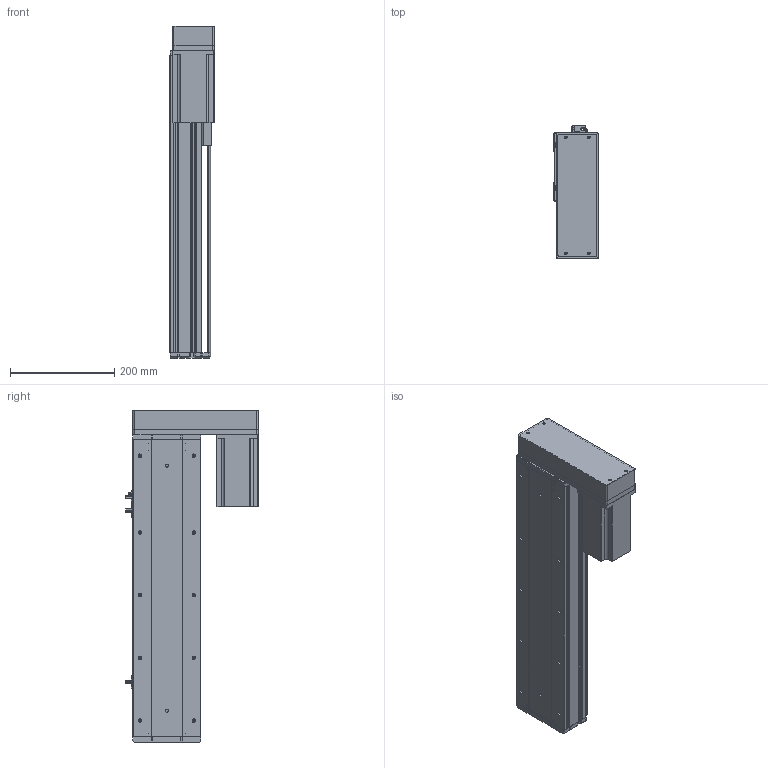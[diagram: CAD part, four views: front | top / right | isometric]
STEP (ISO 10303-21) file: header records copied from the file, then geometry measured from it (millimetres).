
FILE_DESCRIPTION (( 'STEP AP214' ), '1' );
FILE_NAME ('KSD130-P2010-S350-MR-CM.STEP', '2019-09-17T07:35:50', ( '微软用户' ), ( '微软中国' ), 'SwSTEP 2.0', 'SolidWorks 2014', '' );
FILE_SCHEMA (( 'AUTOMOTIVE_DESIGN' ));
Length unit declared in the file: millimetre
Products named in the file (11): 130宽马达安装板半封闭; 130遵傷裔圉猾敕; 130宽底板半封闭丝杠-350行程; KSD130-P2010-S350-MR-CM; 130宽模组保护罩左右折; 台达ECMA－C20807AS伺服电机; 130宽模组马达安装板连板左右折丝杆; U倰嫖萇EEㄜSX672; 覜茼え100遵圉猾敕; 130宽盖板半封闭丝杠-350行程; 130宽滚珠丝杆安装板半封闭-20丝杠
Assembly tree (12 placements, depth 2):
  KSD130-P2010-S350-MR-CM
    130宽底板半封闭丝杠-350行程
    130遵傷裔圉猾敕
    130宽马达安装板半封闭
    130宽滚珠丝杆安装板半封闭-20丝杠
    130宽盖板半封闭丝杠-350行程
    覜茼え100遵圉猾敕
    U倰嫖萇EEㄜSX672  x3
    130宽模组马达安装板连板左右折丝杆
    台达ECMA－C20807AS伺服电机
    130宽模组保护罩左右折
Bounding box: 85 x 253.7 x 635.5 mm (x, y, z)
Volume: 3045548.5 mm3; surface area: 790231.5 mm2
Topology: 13 solids, 13 shells, 1240 faces, 3465 edges, 2219 vertices
Faces by surface type: cylinder 571, plane 546, cone 123
Entity records: 39268 total; most frequent: CARTESIAN_POINT 7098, DIRECTION 5871, ORIENTED_EDGE 5650, EDGE_CURVE 2825, AXIS2_PLACEMENT_3D 2108, VERTEX_POINT 1843, LINE 1655, VECTOR 1655
